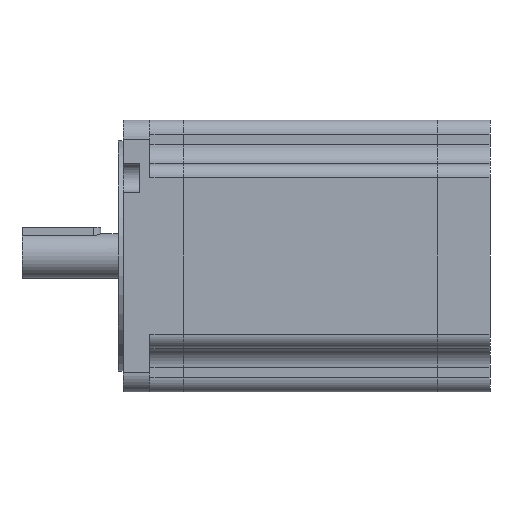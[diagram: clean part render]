
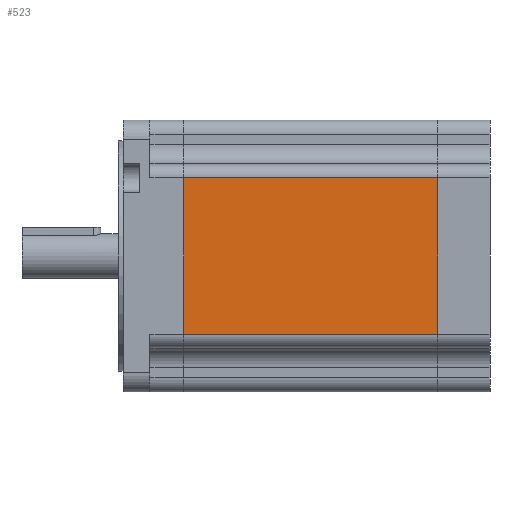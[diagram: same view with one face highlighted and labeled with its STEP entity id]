
A CAD part, left-side view. The second image highlights one B-rep face of the part: STEP entity #523.
In plain terms, the highlighted planar face has unit normal (-1, 0, 0).
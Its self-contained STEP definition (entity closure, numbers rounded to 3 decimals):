
#52 = DIRECTION ( 'NONE',  ( 0., -1., 0. ) ) ;
#230 = ORIENTED_EDGE ( 'NONE', *, *, #2195, .F. ) ;
#247 = VERTEX_POINT ( 'NONE', #2988 ) ;
#349 = DIRECTION ( 'NONE',  ( 0., 0., 1. ) ) ;
#353 = LINE ( 'NONE', #3879, #4620 ) ;
#414 = AXIS2_PLACEMENT_3D ( 'NONE', #4360, #1855, #1436 ) ;
#460 = EDGE_CURVE ( 'NONE', #3390, #1518, #4001, .T. ) ;
#523 = ADVANCED_FACE ( 'NONE', ( #4988 ), #4336, .F. ) ;
#536 = ORIENTED_EDGE ( 'NONE', *, *, #460, .T. ) ;
#855 = LINE ( 'NONE', #2437, #1980 ) ;
#1205 = CARTESIAN_POINT ( 'NONE',  ( 0., 80.5, -18.2 ) ) ;
#1226 = LINE ( 'NONE', #1389, #3042 ) ;
#1346 = EDGE_CURVE ( 'NONE', #3390, #4934, #855, .T. ) ;
#1389 = CARTESIAN_POINT ( 'NONE',  ( 0., 80.5, -18.2 ) ) ;
#1436 = DIRECTION ( 'NONE',  ( 0., 0., -1. ) ) ;
#1518 = VERTEX_POINT ( 'NONE', #3891 ) ;
#1738 = EDGE_LOOP ( 'NONE', ( #2231, #230, #4817, #536 ) ) ;
#1791 = VECTOR ( 'NONE', #52, 1000. ) ;
#1855 = DIRECTION ( 'NONE',  ( 1., 0., 0. ) ) ;
#1980 = VECTOR ( 'NONE', #349, 1000. ) ;
#2195 = EDGE_CURVE ( 'NONE', #4934, #247, #1226, .T. ) ;
#2231 = ORIENTED_EDGE ( 'NONE', *, *, #5104, .T. ) ;
#2435 = DIRECTION ( 'NONE',  ( 0., 0., 1. ) ) ;
#2437 = CARTESIAN_POINT ( 'NONE',  ( 0., 80.5, -67.8 ) ) ;
#2549 = DIRECTION ( 'NONE',  ( 0., -1., 0. ) ) ;
#2710 = CARTESIAN_POINT ( 'NONE',  ( 0., 80.5, -67.8 ) ) ;
#2988 = CARTESIAN_POINT ( 'NONE',  ( 0., 0., -18.2 ) ) ;
#3042 = VECTOR ( 'NONE', #2549, 1000. ) ;
#3390 = VERTEX_POINT ( 'NONE', #2710 ) ;
#3879 = CARTESIAN_POINT ( 'NONE',  ( 0., 0., -67.8 ) ) ;
#3891 = CARTESIAN_POINT ( 'NONE',  ( 0., 0., -67.8 ) ) ;
#4001 = LINE ( 'NONE', #4303, #1791 ) ;
#4303 = CARTESIAN_POINT ( 'NONE',  ( 0., 80.5, -67.8 ) ) ;
#4336 = PLANE ( 'NONE',  #414 ) ;
#4360 = CARTESIAN_POINT ( 'NONE',  ( 0., 80.5, -67.8 ) ) ;
#4620 = VECTOR ( 'NONE', #2435, 1000. ) ;
#4817 = ORIENTED_EDGE ( 'NONE', *, *, #1346, .F. ) ;
#4934 = VERTEX_POINT ( 'NONE', #1205 ) ;
#4988 = FACE_OUTER_BOUND ( 'NONE', #1738, .T. ) ;
#5104 = EDGE_CURVE ( 'NONE', #1518, #247, #353, .T. ) ;
